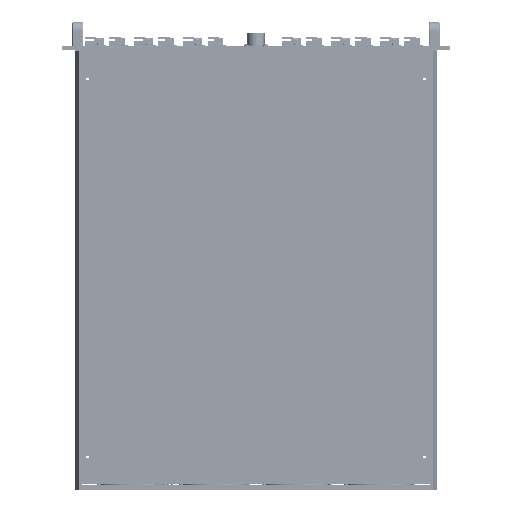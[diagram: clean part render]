
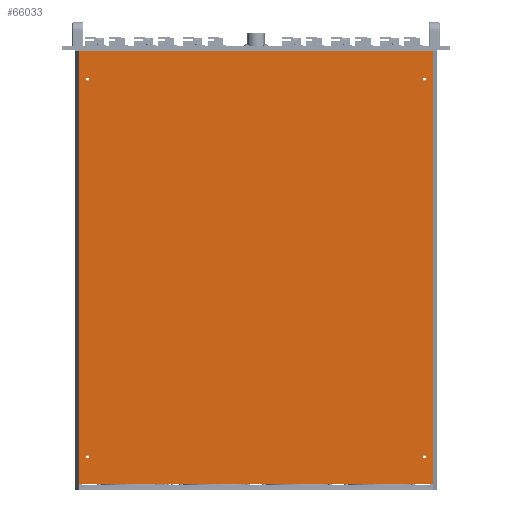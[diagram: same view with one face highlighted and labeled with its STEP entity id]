
A CAD part, front view. The second image highlights one B-rep face of the part: STEP entity #66033.
In plain terms, the highlighted planar face has unit normal (0, -1, 0).
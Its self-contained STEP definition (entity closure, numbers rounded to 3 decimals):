
#2129 = AXIS2_PLACEMENT_3D ( 'NONE', #44867, #160796, #42065 ) ;
#3464 = VECTOR ( 'NONE', #56269, 1000. ) ;
#3735 = EDGE_CURVE ( 'NONE', #46071, #75377, #177185, .T. ) ;
#5872 = AXIS2_PLACEMENT_3D ( 'NONE', #119302, #185909, #54018 ) ;
#6154 = VERTEX_POINT ( 'NONE', #19281 ) ;
#8633 = CIRCLE ( 'NONE', #143843, 2.25 ) ;
#8668 = CARTESIAN_POINT ( 'NONE',  ( 7.131, -57.41, 755.5 ) ) ;
#9428 = ORIENTED_EDGE ( 'NONE', *, *, #3735, .F. ) ;
#9864 = DIRECTION ( 'NONE',  ( 0., -1., 0. ) ) ;
#11094 = CIRCLE ( 'NONE', #43161, 2.25 ) ;
#11632 = DIRECTION ( 'NONE',  ( 0., -1., 0. ) ) ;
#15393 = AXIS2_PLACEMENT_3D ( 'NONE', #162595, #63292, #45948 ) ;
#15958 = CARTESIAN_POINT ( 'NONE',  ( -3.469, -57.41, 720.95 ) ) ;
#16115 = VECTOR ( 'NONE', #37429, 1000. ) ;
#17297 = CIRCLE ( 'NONE', #2129, 2.25 ) ;
#18107 = EDGE_CURVE ( 'NONE', #144013, #68232, #99384, .T. ) ;
#18456 = ORIENTED_EDGE ( 'NONE', *, *, #125066, .T. ) ;
#19281 = CARTESIAN_POINT ( 'NONE',  ( -419.219, -57.41, 253.05 ) ) ;
#21021 = DIRECTION ( 'NONE',  ( 0., -1., 0. ) ) ;
#23022 = EDGE_CURVE ( 'NONE', #213001, #128693, #8633, .T. ) ;
#25161 = EDGE_LOOP ( 'NONE', ( #49868, #108977 ) ) ;
#28870 = LINE ( 'NONE', #8668, #168721 ) ;
#33751 = DIRECTION ( 'NONE',  ( 1., 0., 0. ) ) ;
#36280 = VERTEX_POINT ( 'NONE', #53071 ) ;
#37031 = CARTESIAN_POINT ( 'NONE',  ( -1.219, -57.41, 253.05 ) ) ;
#37429 = DIRECTION ( 'NONE',  ( 1., 0., 0. ) ) ;
#41610 = AXIS2_PLACEMENT_3D ( 'NONE', #91502, #106723, #90060 ) ;
#42065 = DIRECTION ( 'NONE',  ( 1., 0., 0. ) ) ;
#42172 = EDGE_CURVE ( 'NONE', #36280, #138629, #132094, .T. ) ;
#43161 = AXIS2_PLACEMENT_3D ( 'NONE', #160203, #11632, #44974 ) ;
#43176 = ORIENTED_EDGE ( 'NONE', *, *, #141120, .F. ) ;
#44867 = CARTESIAN_POINT ( 'NONE',  ( -421.469, -57.41, 720.95 ) ) ;
#44974 = DIRECTION ( 'NONE',  ( 1., 0., 0. ) ) ;
#45948 = DIRECTION ( 'NONE',  ( 1., 0., 0. ) ) ;
#46071 = VERTEX_POINT ( 'NONE', #125144 ) ;
#47577 = CARTESIAN_POINT ( 'NONE',  ( -432.069, -57.41, 755.5 ) ) ;
#49868 = ORIENTED_EDGE ( 'NONE', *, *, #187346, .F. ) ;
#50600 = ORIENTED_EDGE ( 'NONE', *, *, #109756, .F. ) ;
#53071 = CARTESIAN_POINT ( 'NONE',  ( -1.219, -57.41, 720.95 ) ) ;
#53530 = AXIS2_PLACEMENT_3D ( 'NONE', #92486, #9864, #190276 ) ;
#54018 = DIRECTION ( 'NONE',  ( -1., 0., 0. ) ) ;
#56269 = DIRECTION ( 'NONE',  ( 0., 0., -1. ) ) ;
#56988 = CARTESIAN_POINT ( 'NONE',  ( -432.069, -57.41, 755.5 ) ) ;
#63292 = DIRECTION ( 'NONE',  ( 0., -1., 0. ) ) ;
#63744 = DIRECTION ( 'NONE',  ( 1., 0., 0. ) ) ;
#66033 = ADVANCED_FACE ( 'NONE', ( #135005, #176557, #150587, #119429, #85712 ), #87372, .F. ) ;
#68232 = VERTEX_POINT ( 'NONE', #198139 ) ;
#70525 = ORIENTED_EDGE ( 'NONE', *, *, #18107, .T. ) ;
#70918 = DIRECTION ( 'NONE',  ( 1., 0., 0. ) ) ;
#75377 = VERTEX_POINT ( 'NONE', #94548 ) ;
#78242 = CARTESIAN_POINT ( 'NONE',  ( -423.719, -57.41, 720.95 ) ) ;
#78345 = DIRECTION ( 'NONE',  ( 0., 0., -1. ) ) ;
#85712 = FACE_OUTER_BOUND ( 'NONE', #173703, .T. ) ;
#85965 = CIRCLE ( 'NONE', #41610, 2.25 ) ;
#87372 = PLANE ( 'NONE',  #5872 ) ;
#87438 = ORIENTED_EDGE ( 'NONE', *, *, #101167, .F. ) ;
#90060 = DIRECTION ( 'NONE',  ( 1., 0., 0. ) ) ;
#90599 = DIRECTION ( 'NONE',  ( 1., 0., 0. ) ) ;
#91502 = CARTESIAN_POINT ( 'NONE',  ( -421.469, -57.41, 253.05 ) ) ;
#92486 = CARTESIAN_POINT ( 'NONE',  ( -3.469, -57.41, 253.05 ) ) ;
#93230 = ORIENTED_EDGE ( 'NONE', *, *, #23022, .F. ) ;
#94548 = CARTESIAN_POINT ( 'NONE',  ( 7.131, -57.41, 218.5 ) ) ;
#99165 = VERTEX_POINT ( 'NONE', #104976 ) ;
#99384 = LINE ( 'NONE', #56988, #3464 ) ;
#99457 = VECTOR ( 'NONE', #78345, 1000. ) ;
#99793 = AXIS2_PLACEMENT_3D ( 'NONE', #150312, #117717, #33751 ) ;
#101167 = EDGE_CURVE ( 'NONE', #6154, #99165, #187326, .T. ) ;
#102553 = CARTESIAN_POINT ( 'NONE',  ( 7.131, -57.41, 218.5 ) ) ;
#103627 = CARTESIAN_POINT ( 'NONE',  ( -5.719, -57.41, 253.05 ) ) ;
#103746 = CARTESIAN_POINT ( 'NONE',  ( -5.719, -57.41, 720.95 ) ) ;
#104976 = CARTESIAN_POINT ( 'NONE',  ( -423.719, -57.41, 253.05 ) ) ;
#106723 = DIRECTION ( 'NONE',  ( 0., -1., 0. ) ) ;
#108977 = ORIENTED_EDGE ( 'NONE', *, *, #173106, .F. ) ;
#109756 = EDGE_CURVE ( 'NONE', #99165, #6154, #85965, .T. ) ;
#111980 = LINE ( 'NONE', #102553, #16115 ) ;
#115817 = EDGE_CURVE ( 'NONE', #128693, #213001, #146646, .T. ) ;
#117717 = DIRECTION ( 'NONE',  ( 0., -1., 0. ) ) ;
#119302 = CARTESIAN_POINT ( 'NONE',  ( 7.131, -57.41, 755.5 ) ) ;
#119429 = FACE_BOUND ( 'NONE', #153058, .T. ) ;
#125066 = EDGE_CURVE ( 'NONE', #68232, #75377, #111980, .T. ) ;
#125144 = CARTESIAN_POINT ( 'NONE',  ( 7.131, -57.41, 755.5 ) ) ;
#128693 = VERTEX_POINT ( 'NONE', #103627 ) ;
#129579 = VERTEX_POINT ( 'NONE', #181412 ) ;
#132094 = CIRCLE ( 'NONE', #178388, 2.25 ) ;
#135005 = FACE_BOUND ( 'NONE', #187824, .T. ) ;
#138629 = VERTEX_POINT ( 'NONE', #103746 ) ;
#141120 = EDGE_CURVE ( 'NONE', #138629, #36280, #179052, .T. ) ;
#143843 = AXIS2_PLACEMENT_3D ( 'NONE', #152875, #21021, #70918 ) ;
#144013 = VERTEX_POINT ( 'NONE', #47577 ) ;
#146646 = CIRCLE ( 'NONE', #53530, 2.25 ) ;
#150312 = CARTESIAN_POINT ( 'NONE',  ( -421.469, -57.41, 253.05 ) ) ;
#150587 = FACE_BOUND ( 'NONE', #25161, .T. ) ;
#152875 = CARTESIAN_POINT ( 'NONE',  ( -3.469, -57.41, 253.05 ) ) ;
#153058 = EDGE_LOOP ( 'NONE', ( #87438, #50600 ) ) ;
#159687 = VERTEX_POINT ( 'NONE', #78242 ) ;
#159820 = ORIENTED_EDGE ( 'NONE', *, *, #115817, .F. ) ;
#160203 = CARTESIAN_POINT ( 'NONE',  ( -421.469, -57.41, 720.95 ) ) ;
#160796 = DIRECTION ( 'NONE',  ( 0., -1., 0. ) ) ;
#161666 = CARTESIAN_POINT ( 'NONE',  ( 7.131, -57.41, 755.5 ) ) ;
#162595 = CARTESIAN_POINT ( 'NONE',  ( -3.469, -57.41, 720.95 ) ) ;
#165377 = ORIENTED_EDGE ( 'NONE', *, *, #176728, .F. ) ;
#168721 = VECTOR ( 'NONE', #90599, 1000. ) ;
#173106 = EDGE_CURVE ( 'NONE', #159687, #129579, #17297, .T. ) ;
#173703 = EDGE_LOOP ( 'NONE', ( #18456, #9428, #165377, #70525 ) ) ;
#176557 = FACE_BOUND ( 'NONE', #178535, .T. ) ;
#176728 = EDGE_CURVE ( 'NONE', #144013, #46071, #28870, .T. ) ;
#177185 = LINE ( 'NONE', #161666, #99457 ) ;
#178388 = AXIS2_PLACEMENT_3D ( 'NONE', #15958, #215243, #63744 ) ;
#178535 = EDGE_LOOP ( 'NONE', ( #190373, #43176 ) ) ;
#179052 = CIRCLE ( 'NONE', #15393, 2.25 ) ;
#181412 = CARTESIAN_POINT ( 'NONE',  ( -419.219, -57.41, 720.95 ) ) ;
#185909 = DIRECTION ( 'NONE',  ( 0., 1., 0. ) ) ;
#187326 = CIRCLE ( 'NONE', #99793, 2.25 ) ;
#187346 = EDGE_CURVE ( 'NONE', #129579, #159687, #11094, .T. ) ;
#187824 = EDGE_LOOP ( 'NONE', ( #93230, #159820 ) ) ;
#190276 = DIRECTION ( 'NONE',  ( 1., 0., 0. ) ) ;
#190373 = ORIENTED_EDGE ( 'NONE', *, *, #42172, .F. ) ;
#198139 = CARTESIAN_POINT ( 'NONE',  ( -432.069, -57.41, 218.5 ) ) ;
#213001 = VERTEX_POINT ( 'NONE', #37031 ) ;
#215243 = DIRECTION ( 'NONE',  ( 0., -1., 0. ) ) ;
